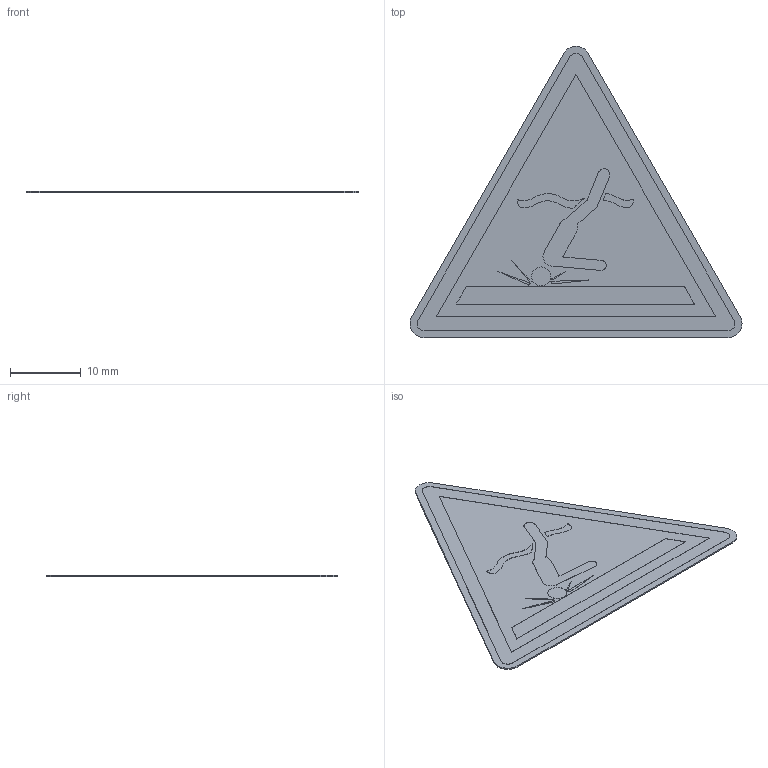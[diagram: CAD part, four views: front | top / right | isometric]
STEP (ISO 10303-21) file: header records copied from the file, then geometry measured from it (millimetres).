
FILE_DESCRIPTION (( 'STEP AP214' ), '1' );
FILE_NAME ('W048_Warnung vor flachem Wasser.STEP', '2022-03-03T14:14:55', ( '' ), ( '' ), 'SwSTEP 2.0', 'SolidWorks 2021', '' );
FILE_SCHEMA (( 'AUTOMOTIVE_DESIGN' ));
Length unit declared in the file: millimetre
Products named in the file (1): W048_Warnung vor flachem Wasser
Bounding box: 47.07 x 41.3 x 0.22 mm (x, y, z)
Volume: 222.8 mm3; surface area: 2185.9 mm2
Topology: 1 solids, 1 shells, 175 faces, 486 edges, 324 vertices
Faces by surface type: plane 136, cylinder 39
Entity records: 7418 total; most frequent: CARTESIAN_POINT 986, ORIENTED_EDGE 972, DIRECTION 916, EDGE_CURVE 486, LINE 408, VECTOR 408, VERTEX_POINT 324, AXIS2_PLACEMENT_3D 254
